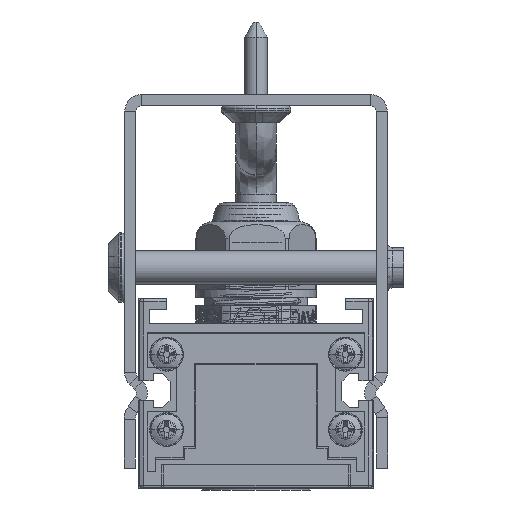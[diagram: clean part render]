
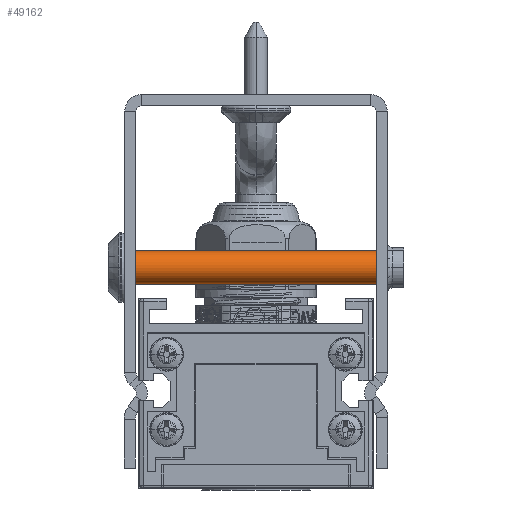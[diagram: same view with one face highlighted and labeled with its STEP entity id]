
A CAD part, front view. The second image highlights one B-rep face of the part: STEP entity #49162.
In plain terms, the highlighted cylindrical face has radius 3 mm (diameter 6 mm), a partial arc.
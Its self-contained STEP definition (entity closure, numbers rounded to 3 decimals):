
#48833=DIRECTION('',(-1.,0.,0.));
#48834=VECTOR('',#48833,50.);
#48835=CARTESIAN_POINT('',(53.,0.,-3.));
#48836=LINE('',#48835,#48834);
#48837=CARTESIAN_POINT('',(3.,0.,0.));
#48838=DIRECTION('',(-1.,0.,0.));
#48839=DIRECTION('',(0.,0.,-1.));
#48840=AXIS2_PLACEMENT_3D('',#48837,#48838,#48839);
#48842=DIRECTION('',(1.,0.,0.));
#48843=VECTOR('',#48842,50.);
#48844=CARTESIAN_POINT('',(3.,0.,3.));
#48845=LINE('',#48844,#48843);
#48846=CARTESIAN_POINT('',(53.,0.,0.));
#48847=DIRECTION('',(-1.,0.,0.));
#48848=DIRECTION('',(0.,0.,-1.));
#48849=AXIS2_PLACEMENT_3D('',#48846,#48847,#48848);
#49119=CARTESIAN_POINT('',(3.,0.,3.));
#49120=CARTESIAN_POINT('',(3.,0.,-3.));
#49121=VERTEX_POINT('',#49119);
#49122=VERTEX_POINT('',#49120);
#49143=CARTESIAN_POINT('',(53.,0.,3.));
#49144=CARTESIAN_POINT('',(53.,0.,-3.));
#49145=VERTEX_POINT('',#49143);
#49146=VERTEX_POINT('',#49144);
#49147=CARTESIAN_POINT('',(-31.75,0.,0.));
#49148=DIRECTION('',(-1.,0.,0.));
#49149=DIRECTION('',(0.,0.,1.));
#49150=AXIS2_PLACEMENT_3D('',#49147,#49148,#49149);
#49151=CYLINDRICAL_SURFACE('',#49150,3.);
#49153=ORIENTED_EDGE('',*,*,#49152,.T.);
#49155=ORIENTED_EDGE('',*,*,#49154,.T.);
#49157=ORIENTED_EDGE('',*,*,#49156,.T.);
#49159=ORIENTED_EDGE('',*,*,#49158,.F.);
#49160=EDGE_LOOP('',(#49153,#49155,#49157,#49159));
#49161=FACE_OUTER_BOUND('',#49160,.F.);
#49162=ADVANCED_FACE('',(#49161),#49151,.T.);
#48841=CIRCLE('',#48840,3.);
#48850=CIRCLE('',#48849,3.);
#49152=EDGE_CURVE('',#49146,#49122,#48836,.T.);
#49154=EDGE_CURVE('',#49122,#49121,#48841,.T.);
#49156=EDGE_CURVE('',#49121,#49145,#48845,.T.);
#49158=EDGE_CURVE('',#49146,#49145,#48850,.T.);
